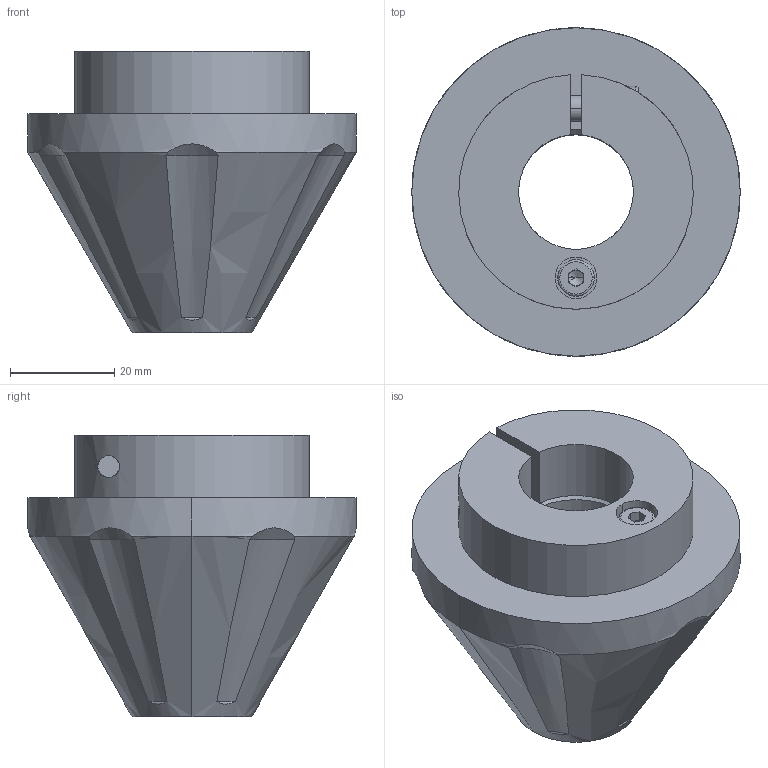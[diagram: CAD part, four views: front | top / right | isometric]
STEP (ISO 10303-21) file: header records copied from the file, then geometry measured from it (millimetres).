
FILE_DESCRIPTION (( 'STEP AP214' ), '1' );
FILE_NAME ('CL-22-F70.STEP', '2023-03-07T08:13:51', ( '' ), ( '' ), 'SwSTEP 2.0', 'SolidWorks 2022', '' );
FILE_SCHEMA (( 'AUTOMOTIVE_DESIGN' ));
Length unit declared in the file: millimetre
Products named in the file (1): CL-22-F70
Bounding box: 63 x 63 x 54 mm (x, y, z)
Volume: 73549.9 mm3; surface area: 19367.4 mm2
Topology: 4 solids, 4 shells, 104 faces, 250 edges, 155 vertices
Faces by surface type: plane 38, cylinder 32, cone 20, bspline 14
Entity records: 4796 total; most frequent: CARTESIAN_POINT 1249, ORIENTED_EDGE 488, DIRECTION 480, EDGE_CURVE 244, AXIS2_PLACEMENT_3D 193, VERTEX_POINT 155, EDGE_LOOP 119, UNCERTAINTY_MEASURE_WITH_UNIT 110
